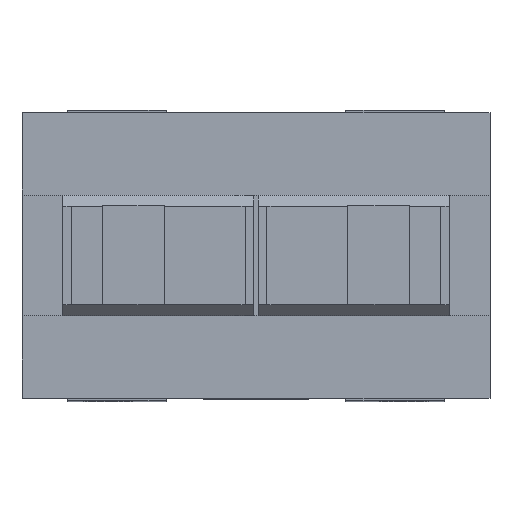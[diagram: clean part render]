
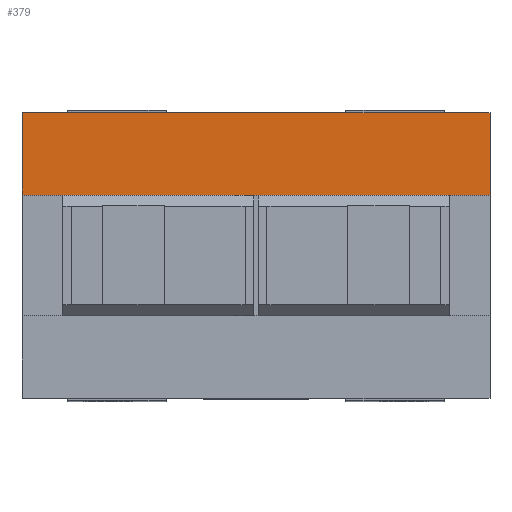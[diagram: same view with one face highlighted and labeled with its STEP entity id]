
A CAD part, top view. The second image highlights one B-rep face of the part: STEP entity #379.
In plain terms, the highlighted planar face has unit normal (0, 0, 1).
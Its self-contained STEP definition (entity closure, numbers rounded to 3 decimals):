
#379 = ADVANCED_FACE( '', ( #839 ), #840, .F. );
#839 = FACE_OUTER_BOUND( '', #1403, .T. );
#840 = PLANE( '', #1404 );
#1403 = EDGE_LOOP( '', ( #2305, #2306, #2307, #2308 ) );
#1404 = AXIS2_PLACEMENT_3D( '', #2309, #2310, #2311 );
#2305 = ORIENTED_EDGE( '', *, *, #3326, .T. );
#2306 = ORIENTED_EDGE( '', *, *, #3198, .F. );
#2307 = ORIENTED_EDGE( '', *, *, #3464, .F. );
#2308 = ORIENTED_EDGE( '', *, *, #3205, .T. );
#2309 = CARTESIAN_POINT( '', ( 19., 11.6, 50. ) );
#2310 = DIRECTION( '', ( 0., 0., -1. ) );
#2311 = DIRECTION( '', ( -1., 0., 0. ) );
#3198 = EDGE_CURVE( '', #3785, #3787, #3788, .T. );
#3205 = EDGE_CURVE( '', #3800, #3798, #3801, .T. );
#3326 = EDGE_CURVE( '', #3798, #3787, #4002, .T. );
#3464 = EDGE_CURVE( '', #3800, #3785, #4220, .T. );
#3785 = VERTEX_POINT( '', #4626 );
#3787 = VERTEX_POINT( '', #4629 );
#3788 = LINE( '', #4630, #4631 );
#3798 = VERTEX_POINT( '', #4645 );
#3800 = VERTEX_POINT( '', #4648 );
#3801 = LINE( '', #4649, #4650 );
#4002 = LINE( '', #4926, #4927 );
#4220 = LINE( '', #5226, #5227 );
#4626 = CARTESIAN_POINT( '', ( 19., 4.9, 50. ) );
#4629 = CARTESIAN_POINT( '', ( -19., 4.9, 50. ) );
#4630 = CARTESIAN_POINT( '', ( 19., 4.9, 50. ) );
#4631 = VECTOR( '', #5704, 1000. );
#4645 = CARTESIAN_POINT( '', ( -19., 11.6, 50. ) );
#4648 = CARTESIAN_POINT( '', ( 19., 11.6, 50. ) );
#4649 = CARTESIAN_POINT( '', ( 19., 11.6, 50. ) );
#4650 = VECTOR( '', #5710, 1000. );
#4926 = CARTESIAN_POINT( '', ( -19., 11.6, 50. ) );
#4927 = VECTOR( '', #5843, 1000. );
#5226 = CARTESIAN_POINT( '', ( 19., 11.6, 50. ) );
#5227 = VECTOR( '', #5997, 1000. );
#5704 = DIRECTION( '', ( -1., 0., 0. ) );
#5710 = DIRECTION( '', ( -1., 0., 0. ) );
#5843 = DIRECTION( '', ( 0., -1., 0. ) );
#5997 = DIRECTION( '', ( 0., -1., 0. ) );
